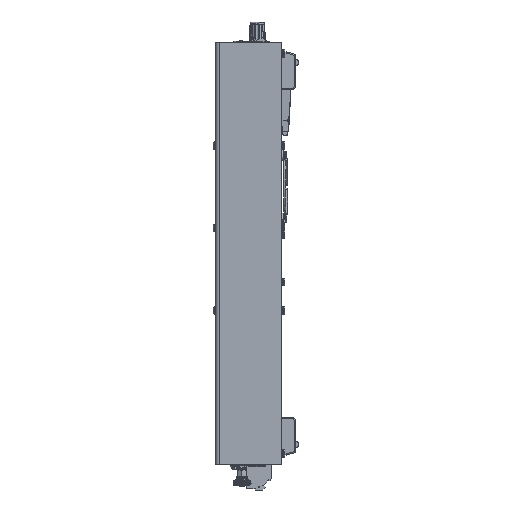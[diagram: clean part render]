
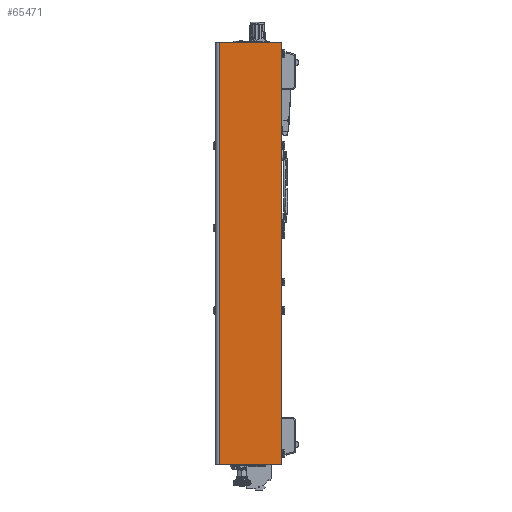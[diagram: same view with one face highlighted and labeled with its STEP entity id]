
A CAD part, left-side view. The second image highlights one B-rep face of the part: STEP entity #65471.
In plain terms, the highlighted planar face has unit normal (-1, 0, 0).
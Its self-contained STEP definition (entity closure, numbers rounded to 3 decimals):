
#6756=LINE('',#116688,#11756);
#6759=LINE('',#116698,#11759);
#6761=LINE('',#116701,#11761);
#6762=LINE('',#116702,#11762);
#11756=VECTOR('',#85046,10.);
#11759=VECTOR('',#85055,10.);
#11761=VECTOR('',#85059,1.88);
#11762=VECTOR('',#85060,10.);
#14271=PLANE('',#70731);
#18634=FACE_OUTER_BOUND('',#22489,.T.);
#22489=EDGE_LOOP('',(#55513,#55514,#55515,#55516));
#30655=VERTEX_POINT('',#116686);
#30656=VERTEX_POINT('',#116687);
#30659=VERTEX_POINT('',#116695);
#30660=VERTEX_POINT('',#116697);
#39170=EDGE_CURVE('',#30655,#30656,#6756,.T.);
#39175=EDGE_CURVE('',#30659,#30660,#6759,.T.);
#39177=EDGE_CURVE('',#30660,#30656,#6761,.T.);
#39178=EDGE_CURVE('',#30655,#30659,#6762,.T.);
#55513=ORIENTED_EDGE('',*,*,#39170,.T.);
#55514=ORIENTED_EDGE('',*,*,#39177,.F.);
#55515=ORIENTED_EDGE('',*,*,#39175,.F.);
#55516=ORIENTED_EDGE('',*,*,#39178,.F.);
#65471=ADVANCED_FACE('',(#18634),#14271,.F.);
#70731=AXIS2_PLACEMENT_3D('',#116700,#85057,#85058);
#85046=DIRECTION('',(0.,0.,-1.));
#85055=DIRECTION('',(0.,0.,-1.));
#85057=DIRECTION('center_axis',(1.,0.,0.));
#85058=DIRECTION('ref_axis',(0.,0.,
1.));
#85059=DIRECTION('',(0.,1.,0.));
#85060=DIRECTION('',(0.,-1.,0.));
#116686=CARTESIAN_POINT('',(-222.,49.,0.));
#116687=CARTESIAN_POINT('',(-222.,49.,-333.));
#116688=CARTESIAN_POINT('',(-222.,49.,-166.5));
#116695=CARTESIAN_POINT('',(-222.,0.,0.));
#116697=CARTESIAN_POINT('',(-222.,0.,-333.));
#116698=CARTESIAN_POINT('',(-222.,0.,0.));
#116700=CARTESIAN_POINT('Origin',(-222.,25.977,-166.5));
#116701=CARTESIAN_POINT('',(-222.,54.906,-333.));
#116702=CARTESIAN_POINT('',(-222.,49.,0.));
